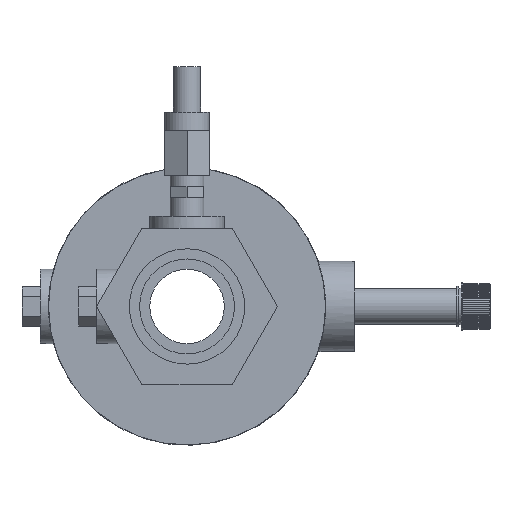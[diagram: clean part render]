
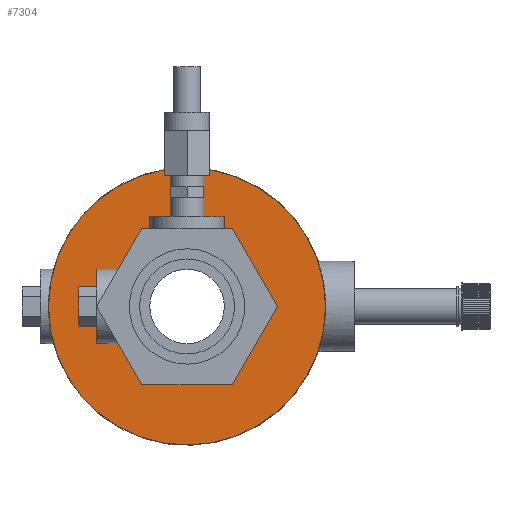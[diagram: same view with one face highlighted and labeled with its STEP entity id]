
A CAD part, left-side view. The second image highlights one B-rep face of the part: STEP entity #7304.
In plain terms, the highlighted planar face has unit normal (-1, 0, 0).
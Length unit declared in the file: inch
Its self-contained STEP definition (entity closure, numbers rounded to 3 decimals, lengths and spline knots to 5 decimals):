
#205=FACE_BOUND('',#1325,.T.);
#250=CIRCLE('',#7523,1.53174);
#251=CIRCLE('',#7524,1.53174);
#258=CIRCLE('',#7537,0.81689);
#260=CIRCLE('',#7539,0.81689);
#261=CIRCLE('',#7540,0.81689);
#941=FACE_OUTER_BOUND('',#1324,.T.);
#1324=EDGE_LOOP('',(#5881,#5882));
#1325=EDGE_LOOP('',(#5883,#5884,#5885,#5886,#5887,#5888,#5889,#5890,#5891));
#1568=LINE('',#10568,#2174);
#1574=LINE('',#10600,#2180);
#1575=LINE('',#10602,#2181);
#1581=LINE('',#10643,#2187);
#1584=LINE('',#10648,#2190);
#1585=LINE('',#10650,#2191);
#2174=VECTOR('',#8481,0.3937);
#2180=VECTOR('',#8493,0.3937);
#2181=VECTOR('',#8496,0.3937);
#2187=VECTOR('',#8518,0.3937);
#2190=VECTOR('',#8523,0.3937);
#2191=VECTOR('',#8526,0.3937);
#2746=VERTEX_POINT('',#10486);
#2754=VERTEX_POINT('',#10526);
#2761=VERTEX_POINT('',#10564);
#2763=VERTEX_POINT('',#10567);
#2767=VERTEX_POINT('',#10596);
#2768=VERTEX_POINT('',#10598);
#2769=VERTEX_POINT('',#10604);
#2771=VERTEX_POINT('',#10609);
#2774=VERTEX_POINT('',#10632);
#2777=VERTEX_POINT('',#10642);
#2778=VERTEX_POINT('',#10646);
#3503=EDGE_CURVE('',#2754,#2746,#250,.T.);
#3504=EDGE_CURVE('',#2746,#2754,#251,.T.);
#3514=EDGE_CURVE('',#2763,#2761,#1568,.T.);
#3522=EDGE_CURVE('',#2767,#2768,#1574,.T.);
#3523=EDGE_CURVE('',#2768,#2763,#1575,.T.);
#3524=EDGE_CURVE('',#2767,#2769,#258,.T.);
#3527=EDGE_CURVE('',#2769,#2771,#260,.T.);
#3531=EDGE_CURVE('',#2774,#2761,#261,.T.);
#3535=EDGE_CURVE('',#2777,#2771,#1581,.T.);
#3538=EDGE_CURVE('',#2774,#2778,#1584,.T.);
#3539=EDGE_CURVE('',#2778,#2777,#1585,.T.);
#5881=ORIENTED_EDGE('',*,*,#3503,.F.);
#5882=ORIENTED_EDGE('',*,*,#3504,.F.);
#5883=ORIENTED_EDGE('',*,*,#3523,.T.);
#5884=ORIENTED_EDGE('',*,*,#3514,.T.);
#5885=ORIENTED_EDGE('',*,*,#3531,.F.);
#5886=ORIENTED_EDGE('',*,*,#3538,.T.);
#5887=ORIENTED_EDGE('',*,*,#3539,.T.);
#5888=ORIENTED_EDGE('',*,*,#3535,.T.);
#5889=ORIENTED_EDGE('',*,*,#3527,.F.);
#5890=ORIENTED_EDGE('',*,*,#3524,.F.);
#5891=ORIENTED_EDGE('',*,*,#3522,.T.);
#6609=PLANE('',#7931);
#7304=ADVANCED_FACE('',(#941,#205),#6609,.T.);
#7523=AXIS2_PLACEMENT_3D('',#10537,#8460,#8461);
#7524=AXIS2_PLACEMENT_3D('',#10538,#8462,#8463);
#7537=AXIS2_PLACEMENT_3D('',#10605,#8499,#8500);
#7539=AXIS2_PLACEMENT_3D('',#10610,#8504,#8505);
#7540=AXIS2_PLACEMENT_3D('',#10634,#8508,#8509);
#7931=AXIS2_PLACEMENT_3D('',#12418,#9601,#9602);
#8460=DIRECTION('center_axis',(1.,0.,0.));
#8461=DIRECTION('ref_axis',(0.,0.,-1.));
#8462=DIRECTION('center_axis',(1.,0.,0.));
#8463=DIRECTION('ref_axis',(0.,0.,-1.));
#8481=DIRECTION('',(0.,-1.,0.));
#8493=DIRECTION('',(0.,1.,0.));
#8496=DIRECTION('',(0.,0.,1.));
#8499=DIRECTION('center_axis',(-1.,0.,0.));
#8500=DIRECTION('ref_axis',(0.,0.,
1.));
#8504=DIRECTION('center_axis',(-1.,0.,0.));
#8505=DIRECTION('ref_axis',(0.,0.,
1.));
#8508=DIRECTION('center_axis',(-1.,0.,0.));
#8509=DIRECTION('ref_axis',(0.,0.,
1.));
#8518=DIRECTION('',(0.,0.,-1.));
#8523=DIRECTION('',(0.,0.,1.));
#8526=DIRECTION('',(0.,-1.,0.));
#9601=DIRECTION('center_axis',(-1.,0.,0.));
#9602=DIRECTION('ref_axis',(0.,0.,1.));
#10486=CARTESIAN_POINT('',(-1.04,1.53174,0.));
#10526=CARTESIAN_POINT('',(-1.04,-1.53174,0.));
#10537=CARTESIAN_POINT('Origin',(-1.04,0.,0.));
#10538=CARTESIAN_POINT('Origin',(-1.04,0.,0.));
#10564=CARTESIAN_POINT('',(-1.04,0.70538,0.412));
#10567=CARTESIAN_POINT('',(-1.04,1.,0.412));
#10568=CARTESIAN_POINT('',(-1.04,0.76587,0.412));
#10596=CARTESIAN_POINT('',(-1.04,0.70538,-0.412));
#10598=CARTESIAN_POINT('',(-1.04,1.,-0.412));
#10600=CARTESIAN_POINT('',(-1.04,0.76587,-0.412));
#10602=CARTESIAN_POINT('',(-1.04,1.,0.));
#10604=CARTESIAN_POINT('',(-1.04,0.,-0.81689));
#10605=CARTESIAN_POINT('Origin',(-1.04,0.,0.));
#10609=CARTESIAN_POINT('',(-1.04,-0.412,0.70538));
#10610=CARTESIAN_POINT('Origin',(-1.04,0.,0.));
#10632=CARTESIAN_POINT('',(-1.04,0.412,0.70538));
#10634=CARTESIAN_POINT('Origin',(-1.04,0.,0.));
#10642=CARTESIAN_POINT('',(-1.04,-0.412,1.));
#10643=CARTESIAN_POINT('',(-1.04,-0.412,0.));
#10646=CARTESIAN_POINT('',(-1.04,0.412,1.));
#10648=CARTESIAN_POINT('',(-1.04,0.412,0.));
#10650=CARTESIAN_POINT('',(-1.04,0.76587,1.));
#12418=CARTESIAN_POINT('Origin',(-1.04,1.53174,0.));
